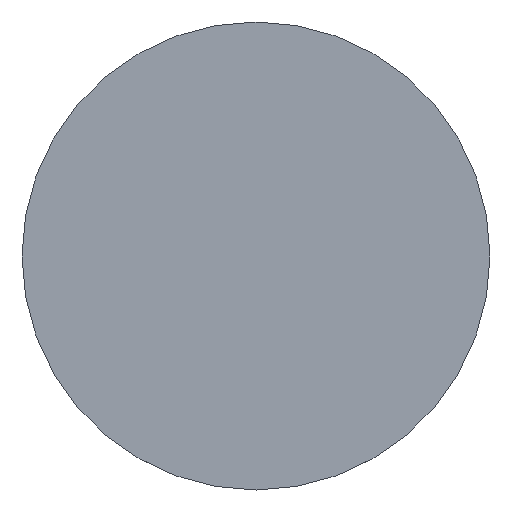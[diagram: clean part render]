
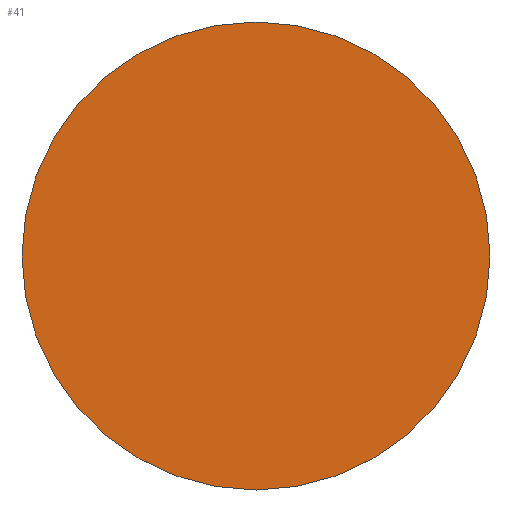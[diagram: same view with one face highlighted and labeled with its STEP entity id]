
A CAD part, top view. The second image highlights one B-rep face of the part: STEP entity #41.
In plain terms, the highlighted planar face has unit normal (0, 0, 1).
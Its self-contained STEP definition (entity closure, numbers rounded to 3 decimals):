
#16=PLANE('',#60);
#19=FACE_OUTER_BOUND('',#22,.T.);
#22=EDGE_LOOP('',(#37));
#25=CIRCLE('',#57,13.4);
#27=VERTEX_POINT('',#76);
#29=EDGE_CURVE('',#27,#27,#25,.T.);
#37=ORIENTED_EDGE('',*,*,#29,.T.);
#41=ADVANCED_FACE('',(#19),#16,.T.);
#57=AXIS2_PLACEMENT_3D('',#77,#65,#66);
#60=AXIS2_PLACEMENT_3D('',#82,#72,#73);
#65=DIRECTION('center_axis',(0.,0.,1.));
#66=DIRECTION('ref_axis',(1.,0.,0.));
#72=DIRECTION('center_axis',(0.,0.,1.));
#73=DIRECTION('ref_axis',(1.,0.,0.));
#76=CARTESIAN_POINT('',(-13.4,-47.,-0.55));
#77=CARTESIAN_POINT('Origin',(0.,-47.,-0.55));
#82=CARTESIAN_POINT('Origin',(0.,-47.,-0.55));
